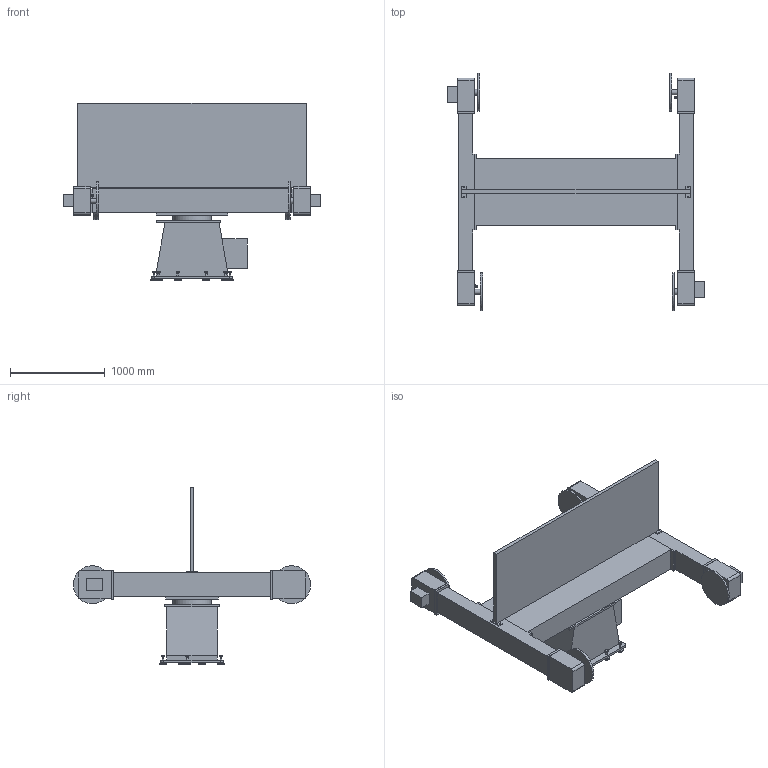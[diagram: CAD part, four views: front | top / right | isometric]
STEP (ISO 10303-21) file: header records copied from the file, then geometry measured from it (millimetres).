
FILE_DESCRIPTION((''),'2;1');
FILE_NAME('H:\Machine construction\Products\Layout symbols\Positioners\VMH\013160-101 VMH-250 S2NM (Low res).stp','2008-03-31T14:28:55',('pbt'),(''),'Autodesk Inventor 2008','Autodesk Inventor 2008','');
FILE_SCHEMA(('AUTOMOTIVE_DESIGN { 1 0 10303 214 1 1 1 1 }'));
Length unit declared in the file: millimetre
Products named in the file (16): 013160- VMH-250 S2NM (iAssy).iam (No details); 013169-100 Y-enhet (1000).iam (No details); 013169-100 Y-enhet (low-res); 013162-101 Vinge 250 kg (iAssy).iam (No details); 114998-101  Mittbalk (Bearbetning) (iAssy).iam (No details); 114998-101 Mittbalk (Bearbetning) (low-res); 115010-100 Arm (bearbetning).iam (No details); 115010-100 Arm (bearbetning) (low-res); 114929-100 Drivdocka 250 kg.iam (No details); 114928-100 Drivdocka 500kg (low-res); 114933-100 Stöddocka.iam (No details); 114933-100 Stöddocka (low-res); 6002115 MC6S 16x40; 6026012 RB M16; 215282-101 Bländskydd.iam (No details); 215282-101 Bländskydd (low-res)
Assembly tree (18 placements, depth 4):
  013160- VMH-250 S2NM (iAssy).iam (No details)
    013169-100 Y-enhet (1000).iam (No details)
      013169-100 Y-enhet (low-res)
    013162-101 Vinge 250 kg (iAssy).iam (No details)
      114998-101  Mittbalk (Bearbetning) (iAssy).iam (No details)
        114998-101 Mittbalk (Bearbetning) (low-res)
      115010-100 Arm (bearbetning).iam (No details)  x2
        115010-100 Arm (bearbetning) (low-res)
      114929-100 Drivdocka 250 kg.iam (No details)  x2
        114928-100 Drivdocka 500kg (low-res)
      114933-100 Stöddocka.iam (No details)  x2
        114933-100 Stöddocka (low-res)
        6002115 MC6S 16x40
        6026012 RB M16
    215282-101 Bländskydd.iam (No details)
      215282-101 Bländskydd (low-res)
Bounding box: 2715 x 2500 x 1874 mm (x, y, z)
Volume: 950037938.3 mm3; surface area: 18594901.6 mm2
Topology: 17 solids, 28 shells, 549 faces, 1143 edges, 764 vertices
Faces by surface type: plane 343, cylinder 91, bspline 72, cone 43
Full cylindrical faces by diameter (mm): 16 x4, 17 x2, 20 x33, 24 x2, 28.19 x11, 30 x2, 50 x2, 60 x1, 64.925 x2, 70 x11, 100 x1, 133 x2, 220 x1, 400 x4, 403.5 x1
Entity records: 12144 total; most frequent: CARTESIAN_POINT 2801, DIRECTION 1758, ORIENTED_EDGE 1478, EDGE_CURVE 739, AXIS2_PLACEMENT_3D 688, EDGE_LOOP 680, VERTEX_POINT 559, FACE_OUTER_BOUND 446
